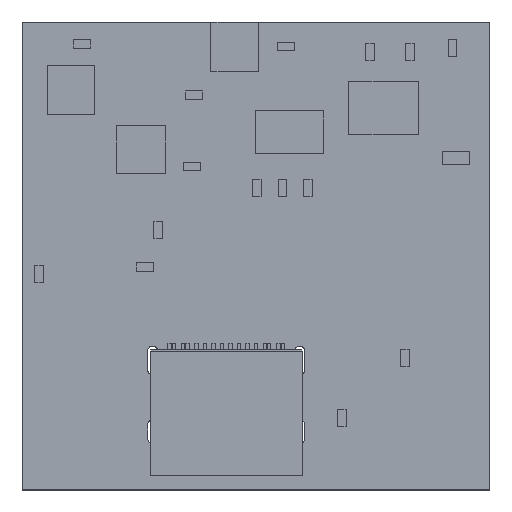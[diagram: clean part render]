
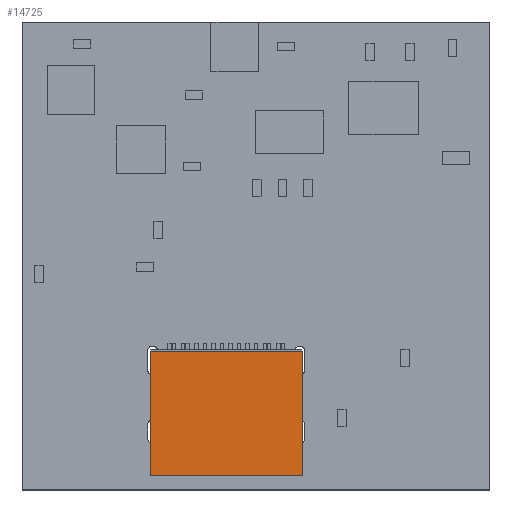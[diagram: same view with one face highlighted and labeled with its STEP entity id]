
A CAD part, top view. The second image highlights one B-rep face of the part: STEP entity #14725.
In plain terms, the highlighted planar face has unit normal (0, 0, 1).
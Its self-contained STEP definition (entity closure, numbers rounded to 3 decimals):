
#559 = PLANE('',#560);
#560 = AXIS2_PLACEMENT_3D('',#561,#562,#563);
#561 = CARTESIAN_POINT('',(16.47,-26.17,-0.035));
#562 = DIRECTION('',(1.,0.,0.));
#563 = DIRECTION('',(0.,0.,1.));
#827 = PLANE('',#828);
#828 = AXIS2_PLACEMENT_3D('',#829,#830,#831);
#829 = CARTESIAN_POINT('',(7.53,-18.84,-0.035));
#830 = DIRECTION('',(0.,1.,0.));
#831 = DIRECTION('',(0.,0.,1.));
#1206 = PLANE('',#1207);
#1207 = AXIS2_PLACEMENT_3D('',#1208,#1209,#1210);
#1208 = CARTESIAN_POINT('',(7.53,-26.17,-0.035));
#1209 = DIRECTION('',(1.,0.,0.));
#1210 = DIRECTION('',(0.,0.,1.));
#14609 = VERTEX_POINT('',#14610);
#14610 = CARTESIAN_POINT('',(7.53,-26.17,4.225));
#14624 = PLANE('',#14625);
#14625 = AXIS2_PLACEMENT_3D('',#14626,#14627,#14628);
#14626 = CARTESIAN_POINT('',(7.53,-26.17,-0.035));
#14627 = DIRECTION('',(0.,1.,0.));
#14628 = DIRECTION('',(0.,0.,1.));
#14678 = VERTEX_POINT('',#14679);
#14679 = CARTESIAN_POINT('',(7.53,-18.84,4.225));
#14700 = EDGE_CURVE('',#14609,#14678,#14701,.T.);
#14701 = SURFACE_CURVE('',#14702,(#14706,#14713),.PCURVE_S1.);
#14702 = LINE('',#14703,#14704);
#14703 = CARTESIAN_POINT('',(7.53,-26.17,4.225));
#14704 = VECTOR('',#14705,1.);
#14705 = DIRECTION('',(0.,1.,0.));
#14706 = PCURVE('',#1206,#14707);
#14707 = DEFINITIONAL_REPRESENTATION('',(#14708),#14712);
#14708 = LINE('',#14709,#14710);
#14709 = CARTESIAN_POINT('',(4.26,0.));
#14710 = VECTOR('',#14711,1.);
#14711 = DIRECTION('',(0.,-1.));
#14712 = ( GEOMETRIC_REPRESENTATION_CONTEXT(2) 
PARAMETRIC_REPRESENTATION_CONTEXT() REPRESENTATION_CONTEXT('2D SPACE',''
  ) );
#14713 = PCURVE('',#14714,#14719);
#14714 = PLANE('',#14715);
#14715 = AXIS2_PLACEMENT_3D('',#14716,#14717,#14718);
#14716 = CARTESIAN_POINT('',(7.53,-26.17,4.225));
#14717 = DIRECTION('',(0.,0.,1.));
#14718 = DIRECTION('',(1.,0.,0.));
#14719 = DEFINITIONAL_REPRESENTATION('',(#14720),#14724);
#14720 = LINE('',#14721,#14722);
#14721 = CARTESIAN_POINT('',(0.,0.));
#14722 = VECTOR('',#14723,1.);
#14723 = DIRECTION('',(0.,1.));
#14724 = ( GEOMETRIC_REPRESENTATION_CONTEXT(2) 
PARAMETRIC_REPRESENTATION_CONTEXT() REPRESENTATION_CONTEXT('2D SPACE',''
  ) );
#14725 = ADVANCED_FACE('',(#14726),#14714,.T.);
#14726 = FACE_BOUND('',#14727,.T.);
#14727 = EDGE_LOOP('',(#14728,#14729,#14752,#14775));
#14728 = ORIENTED_EDGE('',*,*,#14700,.F.);
#14729 = ORIENTED_EDGE('',*,*,#14730,.F.);
#14730 = EDGE_CURVE('',#14731,#14609,#14733,.T.);
#14731 = VERTEX_POINT('',#14732);
#14732 = CARTESIAN_POINT('',(16.47,-26.17,4.225));
#14733 = SURFACE_CURVE('',#14734,(#14738,#14745),.PCURVE_S1.);
#14734 = LINE('',#14735,#14736);
#14735 = CARTESIAN_POINT('',(16.47,-26.17,4.225));
#14736 = VECTOR('',#14737,1.);
#14737 = DIRECTION('',(-1.,0.,0.));
#14738 = PCURVE('',#14714,#14739);
#14739 = DEFINITIONAL_REPRESENTATION('',(#14740),#14744);
#14740 = LINE('',#14741,#14742);
#14741 = CARTESIAN_POINT('',(8.94,0.));
#14742 = VECTOR('',#14743,1.);
#14743 = DIRECTION('',(-1.,0.));
#14744 = ( GEOMETRIC_REPRESENTATION_CONTEXT(2) 
PARAMETRIC_REPRESENTATION_CONTEXT() REPRESENTATION_CONTEXT('2D SPACE',''
  ) );
#14745 = PCURVE('',#14624,#14746);
#14746 = DEFINITIONAL_REPRESENTATION('',(#14747),#14751);
#14747 = LINE('',#14748,#14749);
#14748 = CARTESIAN_POINT('',(4.26,8.94));
#14749 = VECTOR('',#14750,1.);
#14750 = DIRECTION('',(0.,-1.));
#14751 = ( GEOMETRIC_REPRESENTATION_CONTEXT(2) 
PARAMETRIC_REPRESENTATION_CONTEXT() REPRESENTATION_CONTEXT('2D SPACE',''
  ) );
#14752 = ORIENTED_EDGE('',*,*,#14753,.T.);
#14753 = EDGE_CURVE('',#14731,#14754,#14756,.T.);
#14754 = VERTEX_POINT('',#14755);
#14755 = CARTESIAN_POINT('',(16.47,-18.84,4.225));
#14756 = SURFACE_CURVE('',#14757,(#14761,#14768),.PCURVE_S1.);
#14757 = LINE('',#14758,#14759);
#14758 = CARTESIAN_POINT('',(16.47,-26.17,4.225));
#14759 = VECTOR('',#14760,1.);
#14760 = DIRECTION('',(0.,1.,0.));
#14761 = PCURVE('',#14714,#14762);
#14762 = DEFINITIONAL_REPRESENTATION('',(#14763),#14767);
#14763 = LINE('',#14764,#14765);
#14764 = CARTESIAN_POINT('',(8.94,0.));
#14765 = VECTOR('',#14766,1.);
#14766 = DIRECTION('',(0.,1.));
#14767 = ( GEOMETRIC_REPRESENTATION_CONTEXT(2) 
PARAMETRIC_REPRESENTATION_CONTEXT() REPRESENTATION_CONTEXT('2D SPACE',''
  ) );
#14768 = PCURVE('',#559,#14769);
#14769 = DEFINITIONAL_REPRESENTATION('',(#14770),#14774);
#14770 = LINE('',#14771,#14772);
#14771 = CARTESIAN_POINT('',(4.26,0.));
#14772 = VECTOR('',#14773,1.);
#14773 = DIRECTION('',(0.,-1.));
#14774 = ( GEOMETRIC_REPRESENTATION_CONTEXT(2) 
PARAMETRIC_REPRESENTATION_CONTEXT() REPRESENTATION_CONTEXT('2D SPACE',''
  ) );
#14775 = ORIENTED_EDGE('',*,*,#14776,.T.);
#14776 = EDGE_CURVE('',#14754,#14678,#14777,.T.);
#14777 = SURFACE_CURVE('',#14778,(#14782,#14789),.PCURVE_S1.);
#14778 = LINE('',#14779,#14780);
#14779 = CARTESIAN_POINT('',(16.47,-18.84,4.225));
#14780 = VECTOR('',#14781,1.);
#14781 = DIRECTION('',(-1.,0.,0.));
#14782 = PCURVE('',#14714,#14783);
#14783 = DEFINITIONAL_REPRESENTATION('',(#14784),#14788);
#14784 = LINE('',#14785,#14786);
#14785 = CARTESIAN_POINT('',(8.94,7.33));
#14786 = VECTOR('',#14787,1.);
#14787 = DIRECTION('',(-1.,0.));
#14788 = ( GEOMETRIC_REPRESENTATION_CONTEXT(2) 
PARAMETRIC_REPRESENTATION_CONTEXT() REPRESENTATION_CONTEXT('2D SPACE',''
  ) );
#14789 = PCURVE('',#827,#14790);
#14790 = DEFINITIONAL_REPRESENTATION('',(#14791),#14795);
#14791 = LINE('',#14792,#14793);
#14792 = CARTESIAN_POINT('',(4.26,8.94));
#14793 = VECTOR('',#14794,1.);
#14794 = DIRECTION('',(0.,-1.));
#14795 = ( GEOMETRIC_REPRESENTATION_CONTEXT(2) 
PARAMETRIC_REPRESENTATION_CONTEXT() REPRESENTATION_CONTEXT('2D SPACE',''
  ) );
